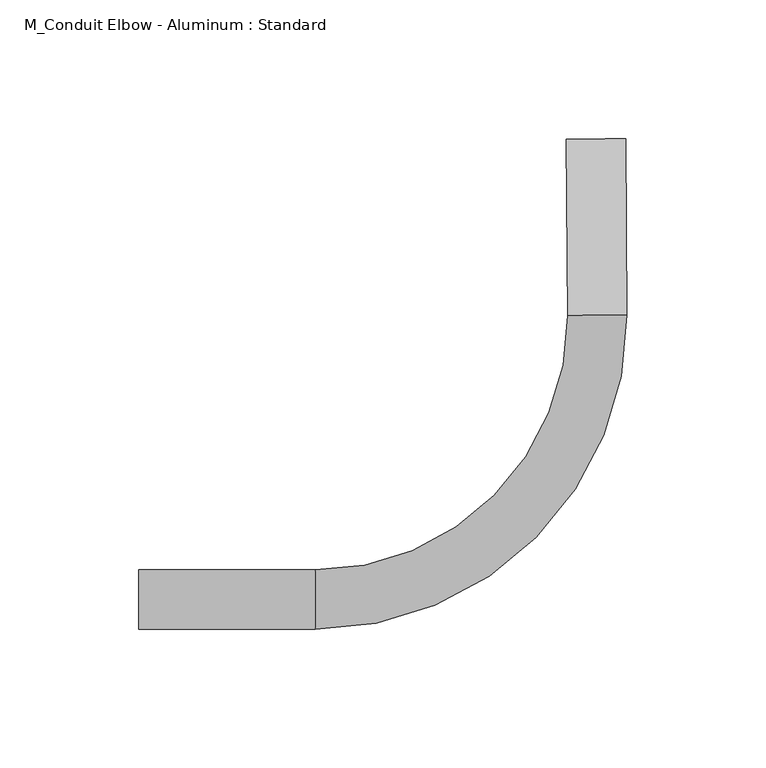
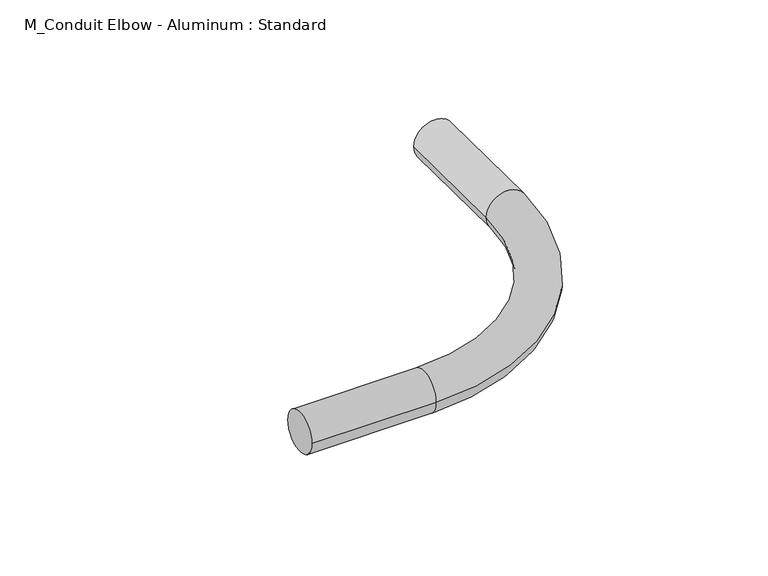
"""IFC4 building model written with IfcOpenShell, lengths in millimetres: cable carrier fitting geometry, M_Conduit Elbow - Aluminum : Standard."""

from ifc_helpers import new_model, si_unit, point, frame, origin, place, context, project, spatial, circle_curve, ellipse_curve, trimmed, source, transform, mapped, element, save
from ifc_brep_helpers import plane_surface, cylinder_surface, revolved_surface, advanced_brep


def m_conduit_elbow_aluminum_standard_d6e83718(model_context):
    return source(origin(), model_context, "Body", "AdvancedBrep", [
        advanced_brep(
        [(-165.8200764, -10.668, 0.0), (-165.8200764, 10.668, 0.0), (-102.3200764, -10.668, 0.0), (-102.3200764, 10.668, 0.0), (-11.3903441, 102.2421847, 0.0), (9.9451238, 102.3928649, 0.0), (9.4966709, 165.8912813, 0.0), (-11.8387971, 165.7406011, 0.0)],
        [
            (0, 1, circle_curve(frame((-165.8200764, 0.0, 0.0), z_axis=(-1.0, 0.0, 0.0), x_axis=(0.0, 1.0, 0.0)), 10.668)),
            (1, 0, circle_curve(frame((-165.8200764, 0.0, 0.0), z_axis=(-1.0, 0.0, 0.0), x_axis=(0.0, 1.0, 0.0)), 10.668)),
            (0, 2),
            (2, 3, circle_curve(frame((-102.3200764, 0.0, 0.0), z_axis=(-1.0, 0.0, 0.0), x_axis=(0.0, 1.0, 0.0)), 10.668)),
            (3, 1),
            (3, 2, circle_curve(frame((-102.3200764, 0.0, 0.0), z_axis=(-1.0, 0.0, 0.0), x_axis=(0.0, 1.0, 0.0)), 10.668)),
            (4, 3, circle_curve(frame((-102.3200764, 101.6, 0.0), z_axis=(0.0, 0.0, -1.0), x_axis=(0.0, -1.0, 0.0)), 90.932)),
            (2, 5, circle_curve(frame((-102.3200764, 101.6, 0.0), z_axis=(0.0, 0.0, 1.0), x_axis=(0.0, -1.0, 0.0)), 112.268)),
            (5, 4, circle_curve(frame((-0.7226101, 102.3175248, 0.0), z_axis=(0.007062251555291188, -0.9999750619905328, 0.0), x_axis=(-0.9999750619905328, -0.007062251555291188, 0.0)), 10.668)),
            (4, 5, circle_curve(frame((-0.7226101, 102.3175248, 0.0), z_axis=(0.007062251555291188, -0.9999750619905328, 0.0), x_axis=(-0.9999750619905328, -0.007062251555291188, 0.0)), 10.668)),
            (6, 7, circle_curve(frame((-1.1710631, 165.8159412, 0.0), z_axis=(-0.007062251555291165, 0.9999750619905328, 0.0), x_axis=(-0.9999750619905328, -0.007062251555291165, 0.0)), 10.668)),
            (7, 6, circle_curve(frame((-1.1710631, 165.8159412, 0.0), z_axis=(-0.007062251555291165, 0.9999750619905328, 0.0), x_axis=(-0.9999750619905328, -0.007062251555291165, 0.0)), 10.668)),
            (5, 6),
            (7, 4),
        ],
        [
            plane_surface(frame((-165.8200764, 0.0, 0.0), z_axis=(-1.0, 0.0, 0.0), x_axis=(0.0, 0.0, 1.0))),
            cylinder_surface(frame((-165.8200764, 0.0, 0.0), z_axis=(-1.0, 0.0, 0.0), x_axis=(0.0, 1.0, 0.0)), 10.668),
            revolved_surface(trimmed(ellipse_curve(frame((-102.3200764, 0.0, 0.0), z_axis=(-1.0, 0.0, 0.0), x_axis=(0.0, 1.0, 0.0)), 10.668, 10.668), [point((-102.3200764, -10.668, 0.0))], [point((-102.3200764, 10.668, 0.0))], True, "CARTESIAN"), (-102.3200764, 101.6, 0.0), (0.0, 0.0, 1.0)),
            revolved_surface(trimmed(ellipse_curve(frame((-102.3200764, 0.0, 0.0), z_axis=(-1.0, 0.0, 0.0), x_axis=(0.0, 1.0, 0.0)), 10.668, 10.668), [point((-102.3200764, 10.668, 0.0))], [point((-102.3200764, -10.668, 0.0))], True, "CARTESIAN"), (-102.3200764, 101.6, 0.0), (0.0, 0.0, 1.0)),
            plane_surface(frame((-1.1710631, 165.8159412, 0.0), z_axis=(-0.007062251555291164, 0.9999750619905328, 0.0), x_axis=(0.0, 0.0, 1.0))),
            cylinder_surface(frame((-0.7226101, 102.3175248, 0.0), z_axis=(0.007062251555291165, -0.9999750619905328, 0.0), x_axis=(-0.9999750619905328, -0.007062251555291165, 0.0)), 10.668),
        ],
        [
            (0, [[1, 2]]),
            (1, [[-1, 3, 4, 5]]),
            (1, [[-2, -5, 6, -3]]),
            (2, [[7, -4, 8, 9]]),
            (3, [[-8, -6, -7, 10]]),
            (4, [[11, 12]]),
            (5, [[-9, 13, -12, 14]]),
            (5, [[-10, -14, -11, -13]]),
        ],
    ),
    ])


if __name__ == "__main__":
    model = new_model("IFC4")
    model_context = context("Model", 3, world=origin())
    ifc_project = project(units=[si_unit("LENGTHUNIT", "METRE", prefix="MILLI")], contexts=[model_context])
    site = spatial("IfcSite", under=ifc_project)
    building = spatial("IfcBuilding", under=site)
    placement = place(None, origin())
    m_conduit_elbow_aluminum_standard_shape = m_conduit_elbow_aluminum_standard_d6e83718(model_context)
    element("IfcCableCarrierFitting", 1, ObjectType="M_Conduit Elbow - Aluminum : Standard", at=placement, inside=building, context=model_context, shape_type="MappedRepresentation", body=[
        mapped(m_conduit_elbow_aluminum_standard_shape, transform((0.0, 0.0, 0.0), x_axis=(1.0, 0.0, 0.0), y_axis=(0.0, 1.0, 0.0), z_axis=(0.0, 0.0, 1.0))),
    ])
    save(model, "model.ifc")
